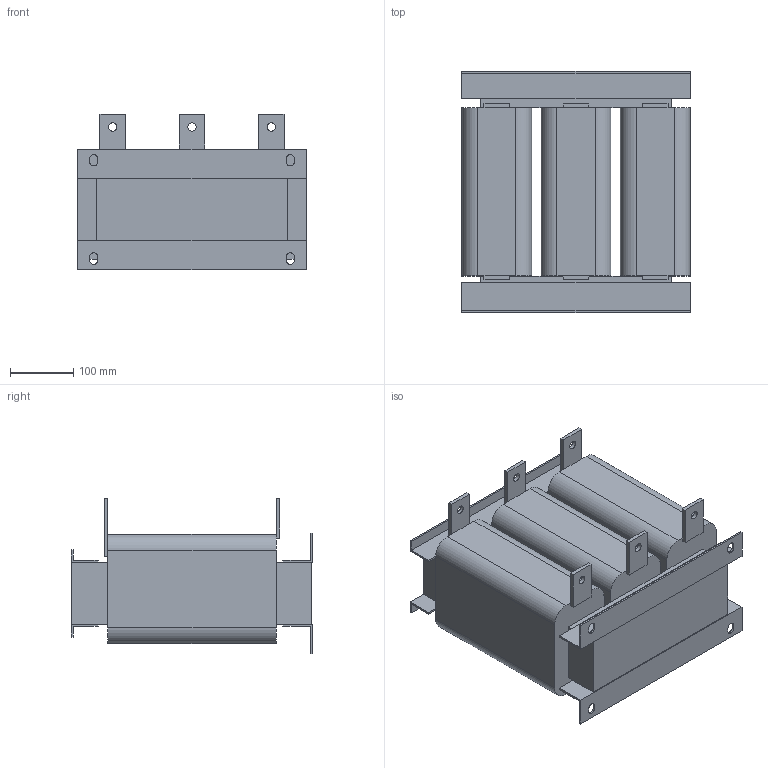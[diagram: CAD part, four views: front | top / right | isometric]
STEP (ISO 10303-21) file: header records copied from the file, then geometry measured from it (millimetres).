
FILE_DESCRIPTION(/* description */ (''),/* implementation_level */ '2;1');
FILE_NAME(/* name */ 'E:\Работа\Веда МК (Данфосс)\!Текущие задачи\2024.08.30 3D модели\Дроссели\ACO 1-проц 660 В\STP\ACO-C-0540-T6.stp',/* time_stamp */ '2024-11-01T15:37:52+04:00',/* author */ ('Александр (огранич)'),/* organization */ (''),/* preprocessor_version */ 'ST-DEVELOPER v18.1',/* originating_system */ 'Autodesk Inventor 2021',/* authorisation */ '');
FILE_SCHEMA (('AUTOMOTIVE_DESIGN { 1 0 10303 214 3 1 1 }'));
Length unit declared in the file: millimetre
Products named in the file (1): ACO-0015-T4-4
Bounding box: 360 x 380 x 245 mm (x, y, z)
Volume: 18363367.7 mm3; surface area: 831981 mm2
Topology: 3 solids, 3 shells, 136 faces, 373 edges, 239 vertices
Faces by surface type: plane 110, cylinder 26
Full cylindrical faces by diameter (mm): 13 x6
Entity records: 4327 total; most frequent: CARTESIAN_POINT 749, ORIENTED_EDGE 746, DIRECTION 702, EDGE_CURVE 373, LINE 318, VECTOR 318, VERTEX_POINT 239, AXIS2_PLACEMENT_3D 192
